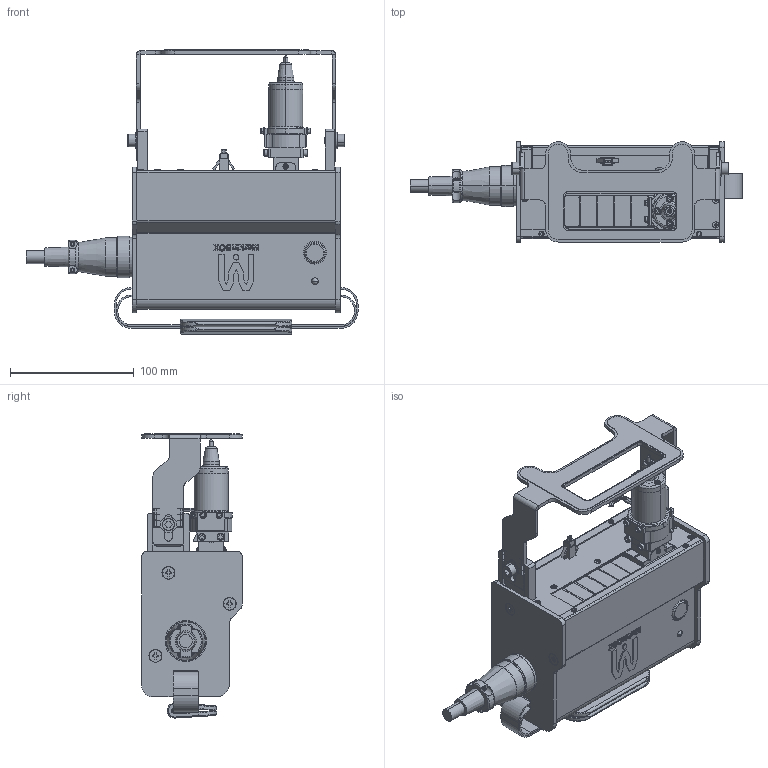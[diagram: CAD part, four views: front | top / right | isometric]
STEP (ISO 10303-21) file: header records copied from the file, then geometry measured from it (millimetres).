
FILE_DESCRIPTION (( 'STEP AP203' ), '1' );
FILE_NAME ('MB8020T v1 -A.STEP', '2024-12-19T04:37:48', ( '' ), ( '' ), 'SwSTEP 2.0', 'SolidWorks 2019', '' );
FILE_SCHEMA (( 'CONFIG_CONTROL_DESIGN' ));
Length unit declared in the file: millimetre
Products named in the file (49): cap25_6; cap3_6; TCQ-K3-02098G-14 v2 僔儍僢僞乕3; TCQ-K3-02700G-29 僗僩儔僢僾2; TCQ-K3-02700G-29_2 儀儖僩1; TCQ-G-00001-5 v3 ソレノイドカバー; JF-15CKCBNP2 タクティルスイッチ; TCQ-K3-02700G-5B ピン(超硬); TCQ-G-00001-4 v2 ピンホルダー; L-59EGW-CA LED儔儞僾; TCQ-K3-02098G-15 v2 僔儍僢僞乕4; TCQ-K3-02098G-29 v1 ナットホルダー; SRCN6A25-24S ケーブル; TCT-00142-02 02 右側板(コネクタ側); TCQ-G-00007-01 v1 ソレノイド取付板; caps25_5; TCQ-K3-02098G-16 v2 僔儍僢僞乕5; TCT-00142-04 02 打刻ガイドプレート; TCQ-K3-02098G-12 v2 僔儍僢僞乕1; TCQ-K3-02700G-29_3 儀儖僩2; cap25_10; sara25_12; TCQ-G-00001-H3  SOL働乕僽儖; TCQ-K3-02700G-28_1 グリップ; capw6_10; SMKB4-10 スペーサー; TCT-00142-06 02-B すべり止めゴム; TCQ-K3-02098G-13 v2 僔儍僢僞乕2; SRCN6A25-24S  ストレートプラグ; SRCN6A25-24S 本体; SOL-CNT; TCQ-K3-02700G-25 ナットホルダーカバー(8020S); sara5_12 SUS; TCQ-K3-02098G-08 v2 底板; NB25_3; NB3_10; TCQ-K3-02098G-17 v2 僔儍僢僞乕6; TCQ-K3-02700G-23 連結板押え; sara25_5; SW25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
Assembly tree (88 placements, depth 3):
  MB8020T v1 -A
    TCQ-K3-02098G-08 v2 底板
    TCQ-K3-02098G-29 v1 ナットホルダー
    TCQ-K3-02700G-23 連結板押え
    TCQ-K3-02700G-24 ナット受板
    TCQ-K3-02700G-25 ナットホルダーカバー(8020S)
    TCQ-K3-02700G-29 僗僩儔僢僾2
      TCQ-K3-02700G-28_1 グリップ
      TCQ-K3-02700G-29_2 儀儖僩1
      TCQ-K3-02700G-29_3 儀儖僩2
    JF-15CKCBNP2 タクティルスイッチ
    L-59EGW-CA LED儔儞僾
    SRCN2A25-24P レセプタクル
    SRCN6A25-24S  ストレートプラグ
      SRCN6A25-24S 本体
      SRCN6A25-24S ケーブル
      NB3_10  x2
    cap25_6  x8
    cap25_10  x3
    cap3_6  x4
    capw6_10  x2
    NB25_3  x2
    sara25_5  x5
    sara25_12  x8
    SOL-CNT
    conector_01
    TCQ-K3-02098G-12 v2 僔儍僢僞乕1
    TCQ-K3-02098G-13 v2 僔儍僢僞乕2
    TCQ-K3-02098G-14 v2 僔儍僢僞乕3
    TCQ-K3-02098G-15 v2 僔儍僢僞乕4
    TCQ-K3-02098G-16 v2 僔儍僢僞乕5
    TCQ-K3-02098G-17 v2 僔儍僢僞乕6
    TCQ-G-00001-4 v2 ピンホルダー
    TCQ-G-00001-5 v3 ソレノイドカバー
    TCQ-G-00001-6 スペーサー
    TCQ-G-00007-01 v1 ソレノイド取付板
    TCQ-K3-02700G-5B ピン(超硬)
    SMKB4-10 スペーサー
    TCQ-G-00001-H3  SOL働乕僽儖
    caps25_5  x4
    SW25  x4
    caps3_8  x4
    TCT-00142-01 02 カバー(MB8020T)
    TCT-00142-02 02 右側板(コネクタ側)
    TCT-00142-03 02 左側板
    sara5_12 SUS  x6
    TCT-00142-05 02 アルミフレーム (DC)
    TCT-00142-04 02 打刻ガイドプレート
    TCT-00142-06 02-B すべり止めゴム
Bounding box: 267.75 x 81 x 229.1 mm (x, y, z)
Volume: 491256.7 mm3; surface area: 374872.9 mm2
Topology: 96 solids, 96 shells, 4239 faces, 10419 edges, 6591 vertices
Faces by surface type: plane 2220, cylinder 1349, cone 497, torus 101, bspline 60, sphere 12
Entity records: 113205 total; most frequent: CARTESIAN_POINT 28369, DIRECTION 16372, ORIENTED_EDGE 16158, EDGE_CURVE 8079, AXIS2_PLACEMENT_3D 5578, LINE 5216, VECTOR 5216, VERTEX_POINT 5173
